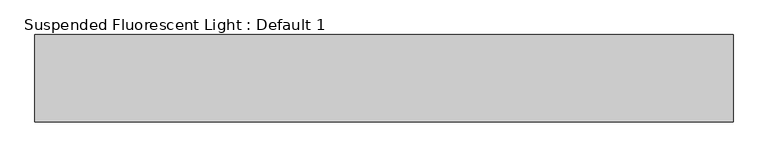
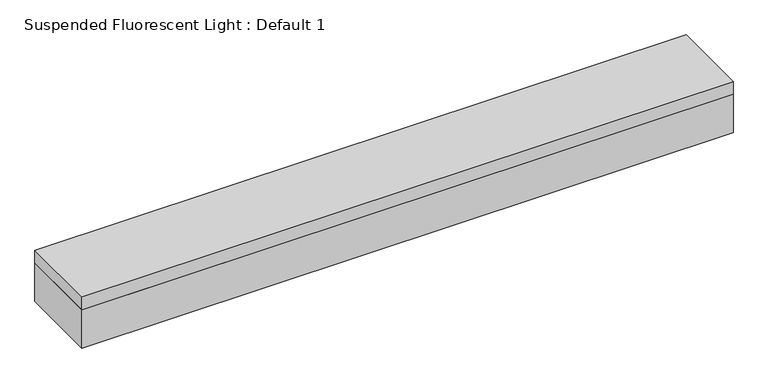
"""IFC4 building model written with IfcOpenShell, lengths in millimetres: light fixture geometry, Suspended Fluorescent Light : Default 1."""

from ifc_helpers import new_model, si_unit, frame, origin, place, context, project, spatial, polyline, outline, extrude, source, transform, mapped, element, save


def suspended_fluorescent_light_default_1_26eb93f3(model_context):
    return source(origin(), model_context, "Body", "SweptSolid", [
        extrude(outline(polyline([(-609.6, 76.2), (609.6, 76.2), (609.6, 0.0), (609.6, -76.2), (-609.6, -76.2), (-609.6, 76.2)])), frame((0.0, 0.0, 2057.4), z_axis=(0.0, 0.0, 1.0), x_axis=(1.0, 0.0, 0.0)), (0.0, 0.0, 1.0), 25.4),
        extrude(outline(polyline([(-609.6, 76.2), (609.6, 76.2), (609.6, 0.0), (609.6, -76.2), (-609.6, -76.2), (-609.6, 76.2)])), frame((0.0, 0.0, 1981.2), z_axis=(0.0, 0.0, 1.0), x_axis=(1.0, 0.0, 0.0)), (0.0, 0.0, 1.0), 76.2),
    ])


if __name__ == "__main__":
    model = new_model("IFC4")
    model_context = context("Model", 3, world=origin())
    ifc_project = project(units=[si_unit("LENGTHUNIT", "METRE", prefix="MILLI")], contexts=[model_context])
    site = spatial("IfcSite", under=ifc_project)
    building = spatial("IfcBuilding", under=site)
    placement = place(None, origin())
    suspended_fluorescent_light_default_1_shape = suspended_fluorescent_light_default_1_26eb93f3(model_context)
    element("IfcLightFixture", 1, ObjectType="Suspended Fluorescent Light : Default 1", at=placement, inside=building, context=model_context, shape_type="MappedRepresentation", body=[
        mapped(suspended_fluorescent_light_default_1_shape, transform((0.0, 0.0, 0.0), x_axis=(1.0, 0.0, 0.0), y_axis=(0.0, 1.0, 0.0), z_axis=(0.0, 0.0, 1.0))),
    ])
    save(model, "model.ifc")
